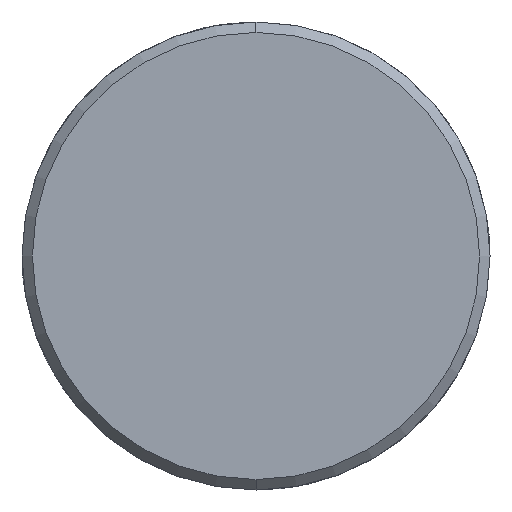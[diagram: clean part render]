
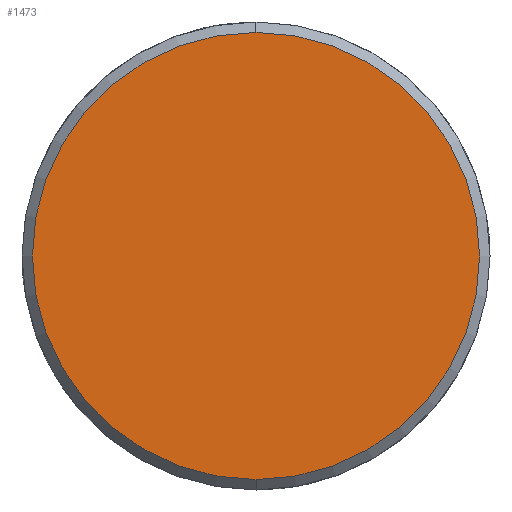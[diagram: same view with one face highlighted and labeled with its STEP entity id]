
A CAD part, left-side view. The second image highlights one B-rep face of the part: STEP entity #1473.
In plain terms, the highlighted planar face has unit normal (-1, 0, 0).
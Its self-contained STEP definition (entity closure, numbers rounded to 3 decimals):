
#1405=CARTESIAN_POINT('Vertex',(-7.,0.,-21.5)) ;
#1408=CARTESIAN_POINT('Axis2P3D Location',(-7.,0.,0.)) ;
#1412=CARTESIAN_POINT('Vertex',(-7.,21.5,0.)) ;
#1415=CARTESIAN_POINT('Axis2P3D Location',(-7.,0.,0.)) ;
#1419=CARTESIAN_POINT('Vertex',(-7.,0.,21.5)) ;
#1441=CARTESIAN_POINT('Axis2P3D Location',(-7.,0.,0.)) ;
#1445=CARTESIAN_POINT('Vertex',(-7.,-21.5,0.)) ;
#1448=CARTESIAN_POINT('Axis2P3D Location',(-7.,0.,0.)) ;
#1462=CARTESIAN_POINT('Axis2P3D Location',(-7.,0.,0.)) ;
#1409=DIRECTION('Axis2P3D Direction',(1.,0.,-0.)) ;
#1416=DIRECTION('Axis2P3D Direction',(1.,0.,-0.)) ;
#1442=DIRECTION('Axis2P3D Direction',(1.,0.,-0.)) ;
#1449=DIRECTION('Axis2P3D Direction',(1.,0.,-0.)) ;
#1463=DIRECTION('Axis2P3D Direction',(1.,0.,-0.)) ;
#1464=DIRECTION('Axis2P3D XDirection',(-0.,0.,-1.)) ;
#1410=AXIS2_PLACEMENT_3D('Circle Axis2P3D',#1408,#1409,$) ;
#1417=AXIS2_PLACEMENT_3D('Circle Axis2P3D',#1415,#1416,$) ;
#1443=AXIS2_PLACEMENT_3D('Circle Axis2P3D',#1441,#1442,$) ;
#1450=AXIS2_PLACEMENT_3D('Circle Axis2P3D',#1448,#1449,$) ;
#1465=AXIS2_PLACEMENT_3D('Plane Axis2P3D',#1462,#1463,#1464) ;
#1468=ORIENTED_EDGE('',*,*,#1414,.F.) ;
#1469=ORIENTED_EDGE('',*,*,#1452,.F.) ;
#1470=ORIENTED_EDGE('',*,*,#1447,.F.) ;
#1471=ORIENTED_EDGE('',*,*,#1421,.F.) ;
#1473=ADVANCED_FACE('351-32X56X240',(#1472),#1466,.F.) ;
#1411=CIRCLE('generated circle',#1410,21.5) ;
#1418=CIRCLE('generated circle',#1417,21.5) ;
#1444=CIRCLE('generated circle',#1443,21.5) ;
#1451=CIRCLE('generated circle',#1450,21.5) ;
#1414=EDGE_CURVE('',#1406,#1413,#1411,.T.) ;
#1421=EDGE_CURVE('',#1413,#1420,#1418,.T.) ;
#1447=EDGE_CURVE('',#1420,#1446,#1444,.T.) ;
#1452=EDGE_CURVE('',#1446,#1406,#1451,.T.) ;
#1467=EDGE_LOOP('',(#1468,#1469,#1470,#1471)) ;
#1472=FACE_OUTER_BOUND('',#1467,.T.) ;
#1466=PLANE('Plane',#1465) ;
#1406=VERTEX_POINT('',#1405) ;
#1413=VERTEX_POINT('',#1412) ;
#1420=VERTEX_POINT('',#1419) ;
#1446=VERTEX_POINT('',#1445) ;
